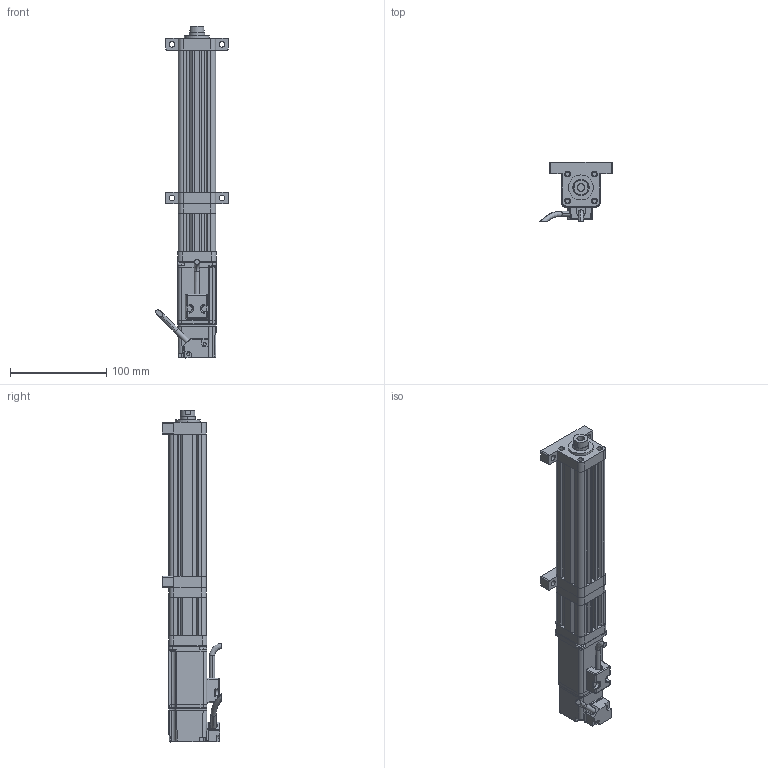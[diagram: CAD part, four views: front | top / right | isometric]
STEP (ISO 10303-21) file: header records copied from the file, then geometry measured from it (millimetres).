
FILE_DESCRIPTION (( 'STEP AP214' ), '1' );
FILE_NAME ('039-S100-D02-A-M2-C2-2.STEP', '2021-03-02T05:42:57', ( '' ), ( '' ), 'SwSTEP 2.0', 'SolidWorks 2018', '' );
FILE_SCHEMA (( 'AUTOMOTIVE_DESIGN' ));
Length unit declared in the file: millimetre
Products named in the file (9): CMC039-QDB; CMC039-AZB; 039-S100-D02-A-M2-C2-2; CMC039-GT; CMC039-HDB; CMC039-DJZ; CMC039-DT; ECMA-CX0401ES-40框號系列機種-100W低慣量系列; CMC039-ZLLJB
Assembly tree (8 placements, depth 2):
  039-S100-D02-A-M2-C2-2
    CMC039-GT
    CMC039-DT
    CMC039-ZLLJB
    CMC039-DJZ
    ECMA-CX0401ES-40框號系列機種-100W低慣量系列
    CMC039-AZB
    CMC039-HDB
    CMC039-QDB
Bounding box: 75.33 x 61.89 x 345.6 mm (x, y, z)
Volume: 396389.5 mm3; surface area: 122904.6 mm2
Topology: 8 solids, 16 shells, 735 faces, 1942 edges, 1223 vertices
Faces by surface type: cylinder 308, plane 306, bspline 84, cone 37
Entity records: 28972 total; most frequent: CARTESIAN_POINT 11393, ORIENTED_EDGE 3818, DIRECTION 3159, EDGE_CURVE 1909, VERTEX_POINT 1223, AXIS2_PLACEMENT_3D 1076, LINE 1007, VECTOR 1007
